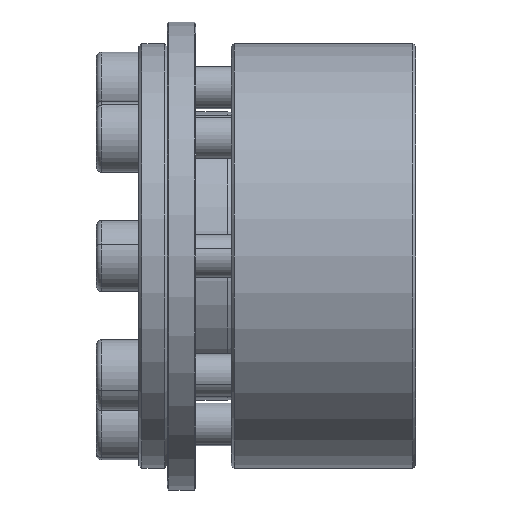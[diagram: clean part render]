
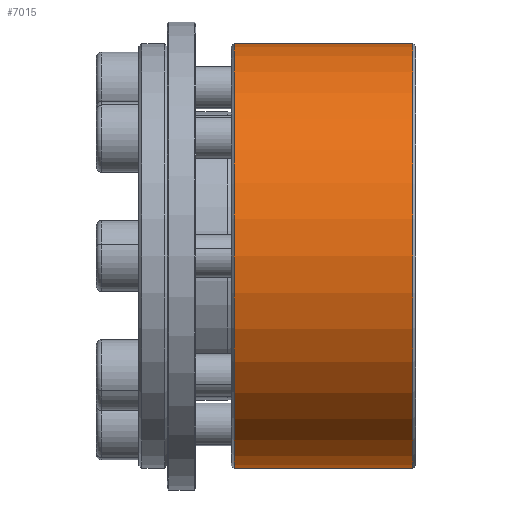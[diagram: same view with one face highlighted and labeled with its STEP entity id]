
A CAD part, front view. The second image highlights one B-rep face of the part: STEP entity #7015.
In plain terms, the highlighted cylindrical face has radius 29.96 mm (diameter 59.92 mm), a partial arc.
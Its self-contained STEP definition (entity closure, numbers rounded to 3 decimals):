
#198 = DIRECTION ( 'NONE',  ( -1., 0., 0. ) ) ;
#471 = ORIENTED_EDGE ( 'NONE', *, *, #4981, .T. ) ;
#745 = AXIS2_PLACEMENT_3D ( 'NONE', #8657, #4272, #8608 ) ;
#797 = DIRECTION ( 'NONE',  ( 0., 0., 1. ) ) ;
#821 = LINE ( 'NONE', #5166, #1065 ) ;
#1060 = EDGE_CURVE ( 'NONE', #3467, #3799, #6213, .T. ) ;
#1065 = VECTOR ( 'NONE', #3673, 1000. ) ;
#1291 = ORIENTED_EDGE ( 'NONE', *, *, #7857, .T. ) ;
#2299 = CARTESIAN_POINT ( 'NONE',  ( -92.766, 26.04, 0. ) ) ;
#2579 = DIRECTION ( 'NONE',  ( 0., 0., 1. ) ) ;
#3001 = FACE_OUTER_BOUND ( 'NONE', #3552, .T. ) ;
#3158 = CARTESIAN_POINT ( 'NONE',  ( -92.366, 26.04, 29.96 ) ) ;
#3467 = VERTEX_POINT ( 'NONE', #6326 ) ;
#3552 = EDGE_LOOP ( 'NONE', ( #6201, #471, #7108, #1291 ) ) ;
#3606 = VERTEX_POINT ( 'NONE', #4462 ) ;
#3611 = EDGE_CURVE ( 'NONE', #3606, #5624, #821, .T. ) ;
#3673 = DIRECTION ( 'NONE',  ( -1., 0., 0. ) ) ;
#3754 = CYLINDRICAL_SURFACE ( 'NONE', #5747, 29.96 ) ;
#3799 = VERTEX_POINT ( 'NONE', #3158 ) ;
#4092 = CARTESIAN_POINT ( 'NONE',  ( -92.366, 26.04, -29.96 ) ) ;
#4272 = DIRECTION ( 'NONE',  ( 1., 0., 0. ) ) ;
#4462 = CARTESIAN_POINT ( 'NONE',  ( -67.166, 26.04, -29.96 ) ) ;
#4981 = EDGE_CURVE ( 'NONE', #3606, #3467, #7557, .T. ) ;
#5166 = CARTESIAN_POINT ( 'NONE',  ( -92.766, 26.04, -29.96 ) ) ;
#5392 = CARTESIAN_POINT ( 'NONE',  ( -92.766, 26.04, 29.96 ) ) ;
#5624 = VERTEX_POINT ( 'NONE', #4092 ) ;
#5747 = AXIS2_PLACEMENT_3D ( 'NONE', #2299, #198, #797 ) ;
#5783 = AXIS2_PLACEMENT_3D ( 'NONE', #6123, #6656, #2579 ) ;
#6123 = CARTESIAN_POINT ( 'NONE',  ( -67.166, 26.04, 0. ) ) ;
#6201 = ORIENTED_EDGE ( 'NONE', *, *, #3611, .F. ) ;
#6213 = LINE ( 'NONE', #5392, #8310 ) ;
#6326 = CARTESIAN_POINT ( 'NONE',  ( -67.166, 26.04, 29.96 ) ) ;
#6656 = DIRECTION ( 'NONE',  ( -1., 0., 0. ) ) ;
#6844 = CIRCLE ( 'NONE', #745, 29.96 ) ;
#7015 = ADVANCED_FACE ( 'NONE', ( #3001 ), #3754, .T. ) ;
#7108 = ORIENTED_EDGE ( 'NONE', *, *, #1060, .T. ) ;
#7557 = CIRCLE ( 'NONE', #5783, 29.96 ) ;
#7857 = EDGE_CURVE ( 'NONE', #3799, #5624, #6844, .T. ) ;
#8310 = VECTOR ( 'NONE', #9063, 1000. ) ;
#8608 = DIRECTION ( 'NONE',  ( 0., 0., -1. ) ) ;
#8657 = CARTESIAN_POINT ( 'NONE',  ( -92.366, 26.04, 0. ) ) ;
#9063 = DIRECTION ( 'NONE',  ( -1., 0., 0. ) ) ;
